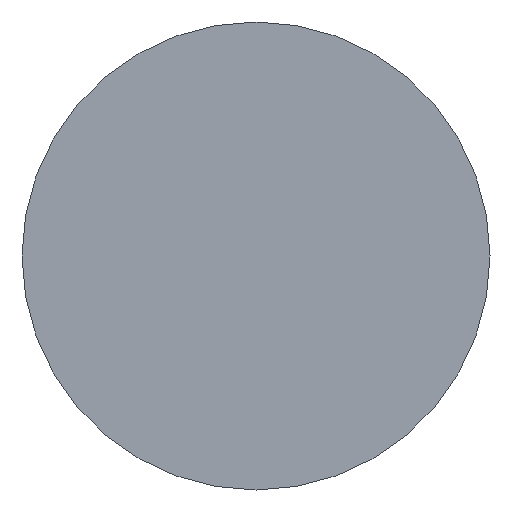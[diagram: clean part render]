
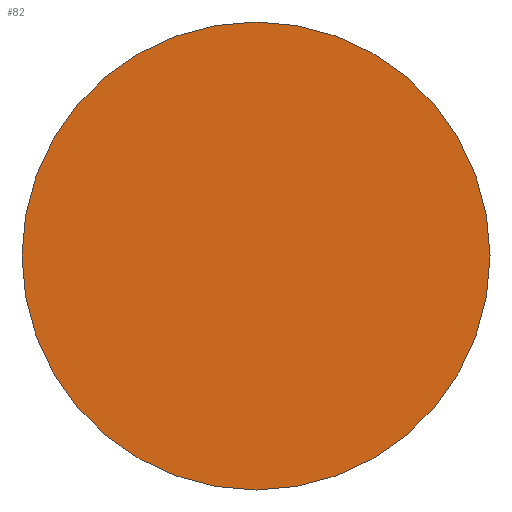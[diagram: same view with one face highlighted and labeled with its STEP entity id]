
A CAD part, left-side view. The second image highlights one B-rep face of the part: STEP entity #82.
In plain terms, the highlighted planar face has unit normal (-1, 0, 0).
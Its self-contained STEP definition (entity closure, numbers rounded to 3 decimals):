
#23 = DIRECTION ( 'NONE',  ( 1., 0., 0. ) ) ;
#56 = DIRECTION ( 'NONE',  ( 1., 0., 0. ) ) ;
#65 = AXIS2_PLACEMENT_3D ( 'NONE', #229, #23, #189 ) ;
#79 = DIRECTION ( 'NONE',  ( 0., -1., 0. ) ) ;
#81 = CARTESIAN_POINT ( 'NONE',  ( 0., -6., 0. ) ) ;
#82 = ADVANCED_FACE ( 'NONE', ( #138 ), #101, .T. ) ;
#101 = PLANE ( 'NONE',  #244 ) ;
#113 = DIRECTION ( 'NONE',  ( -1., 0., 0. ) ) ;
#118 = EDGE_LOOP ( 'NONE', ( #215, #257 ) ) ;
#120 = EDGE_CURVE ( 'NONE', #252, #166, #195, .T. ) ;
#138 = FACE_OUTER_BOUND ( 'NONE', #118, .T. ) ;
#140 = CARTESIAN_POINT ( 'NONE',  ( 0., 0., 0. ) ) ;
#153 = DIRECTION ( 'NONE',  ( 0., 1., 0. ) ) ;
#163 = EDGE_CURVE ( 'NONE', #166, #252, #222, .T. ) ;
#166 = VERTEX_POINT ( 'NONE', #168 ) ;
#168 = CARTESIAN_POINT ( 'NONE',  ( 0., 6., 0. ) ) ;
#189 = DIRECTION ( 'NONE',  ( 0., 1., 0. ) ) ;
#195 = CIRCLE ( 'NONE', #219, 6. ) ;
#212 = CARTESIAN_POINT ( 'NONE',  ( 0., 0., 0. ) ) ;
#215 = ORIENTED_EDGE ( 'NONE', *, *, #163, .F. ) ;
#219 = AXIS2_PLACEMENT_3D ( 'NONE', #140, #56, #153 ) ;
#222 = CIRCLE ( 'NONE', #65, 6. ) ;
#229 = CARTESIAN_POINT ( 'NONE',  ( 0., 0., 0. ) ) ;
#244 = AXIS2_PLACEMENT_3D ( 'NONE', #212, #113, #79 ) ;
#252 = VERTEX_POINT ( 'NONE', #81 ) ;
#257 = ORIENTED_EDGE ( 'NONE', *, *, #120, .F. ) ;
